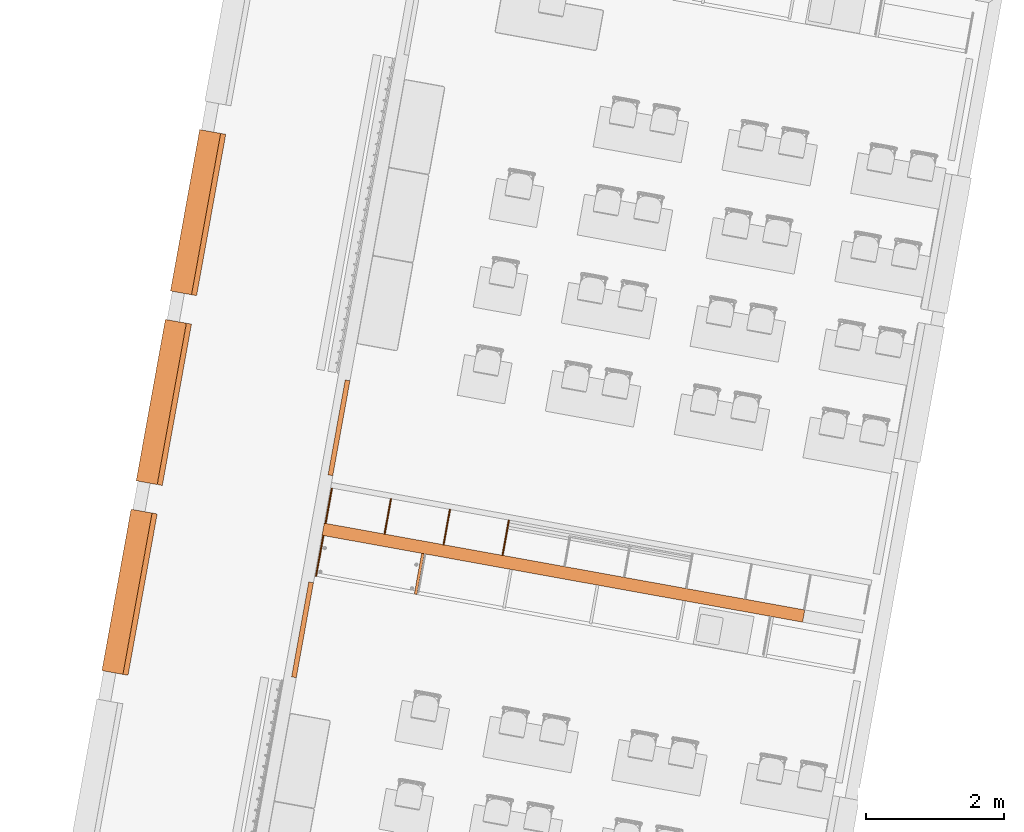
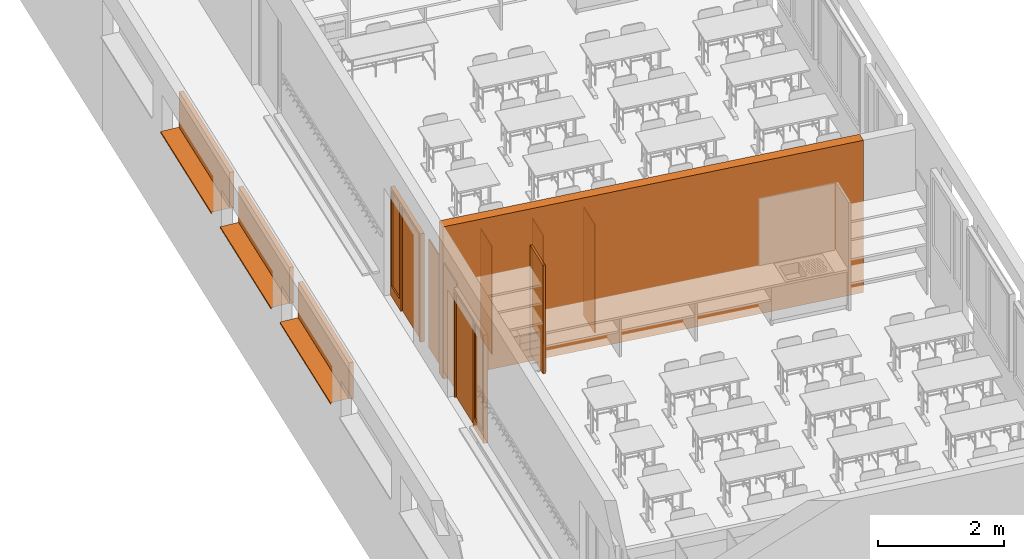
# One storey, part 25 of 79: 12 proxies.
"""IFC2X3 building model written with IfcOpenShell, lengths in metres."""

import ifcopenshell
import ifcopenshell.guid

model = None  # the IFC model being written
_history = None  # IfcOwnerHistory: only IFC2X3 demands one
_inside = {}  # id of a spatial element -> (the spatial element, [elements in it])
_under = {}  # id of a project, library or spatial element -> (it, [spatial elements below it])
_declared = {}  # id of a project -> (the project, [libraries it declares])
_typed = {}  # id of a type object -> (the type object, [elements of that type])
_made_of = {}  # id of a material, layer set ... -> (it, [elements and type objects made of it])


def new_model(schema):
    """Start an empty IFC model of exactly this schema.

    Asked for "IFC4X3", IfcOpenShell would pick the latest addendum, in which some entities
    have other attributes; the version numbers below select the first issue.
    IFC2X3 requires an IfcOwnerHistory on every rooted entity: one is made here for all.
    """
    global model, _history
    if schema == "IFC4X3":
        model = ifcopenshell.file(schema_version=(4, 3, 0, 0))
    else:
        model = ifcopenshell.file(schema=schema)
    _inside.clear()
    _under.clear()
    _declared.clear()
    _typed.clear()
    _made_of.clear()
    _history = None
    if model.schema == "IFC2X3":
        org = make("IfcOrganization", Name="unknown")
        user = make(
            "IfcPersonAndOrganization",
            ThePerson=make("IfcPerson", FamilyName="unknown"),
            TheOrganization=org,
        )
        app = make(
            "IfcApplication",
            ApplicationDeveloper=org,
            Version="unknown",
            ApplicationFullName="unknown",
            ApplicationIdentifier="unknown",
        )
        _history = make(
            "IfcOwnerHistory",
            OwningUser=user,
            OwningApplication=app,
            ChangeAction="ADDED",
            CreationDate=0,
        )
    return model


def make(cls, **values):
    """One entity of the class cls with the attributes given. An attribute that is None is left unset."""
    return model.create_entity(
        cls, **{name: value for name, value in values.items() if value is not None}
    )


def entity(cls, *values):
    """Any entity or typed value of the class cls, its attributes in the order of the schema. None: left unset."""
    e = model.create_entity(cls)
    for i, value in enumerate(values):
        if value is not None:
            e[i] = value
    return e


def rooted(cls, **values):
    """An entity with a GlobalId (a new one), such as an element, a storey or a relation."""
    return make(cls, GlobalId=ifcopenshell.guid.new(), OwnerHistory=_history, **values)


def si_unit(unit_type, name, prefix=None):
    """IfcSIUnit, for example si_unit("LENGTHUNIT", "METRE", prefix="MILLI")."""
    return make("IfcSIUnit", UnitType=unit_type, Prefix=prefix, Name=name)


def converted_unit(unit_type, name, factor, base, dimensions=None, offset=None):
    """IfcConversionBasedUnit, such as the inch: factor (a typed value) times the base unit."""
    return make(
        "IfcConversionBasedUnit"
        if offset is None
        else "IfcConversionBasedUnitWithOffset",
        ConversionOffset=offset,
        Dimensions=None
        if dimensions is None
        else entity("IfcDimensionalExponents", *dimensions),
        UnitType=unit_type,
        Name=name,
        ConversionFactor=make(
            "IfcMeasureWithUnit", ValueComponent=factor, UnitComponent=base
        ),
    )


def derived_unit(unit_type, elements):
    """IfcDerivedUnit: a product of units, each with its exponent."""
    return make(
        "IfcDerivedUnit",
        Elements=[
            make("IfcDerivedUnitElement", Unit=unit, Exponent=power)
            for unit, power in elements
        ],
        UnitType=unit_type,
    )


def money_unit(currency):
    """IfcMonetaryUnit."""
    return make("IfcMonetaryUnit", Currency=currency)


def assignment(units):
    """IfcUnitAssignment: the units of a project."""
    return None if units is None else make("IfcUnitAssignment", Units=units)


def point(xyz):
    """IfcCartesianPoint."""
    return None if xyz is None else make("IfcCartesianPoint", Coordinates=xyz)


def direction(xyz):
    """IfcDirection."""
    return None if xyz is None else make("IfcDirection", DirectionRatios=xyz)


def frame(location, z_axis=None, x_axis=None):
    """IfcAxis2Placement3D, a coordinate frame: its origin and axes. An axis left out is left unset."""
    return make(
        "IfcAxis2Placement3D",
        Location=point(location),
        Axis=direction(z_axis),
        RefDirection=direction(x_axis),
    )


def origin_with_axes():
    """The frame at (0, 0, 0) with the z axis (0, 0, 1) and the x axis (1, 0, 0) written out."""
    return frame((0.0, 0.0, 0.0), z_axis=(0.0, 0.0, 1.0), x_axis=(1.0, 0.0, 0.0))


def place(relative_to, where):
    """IfcLocalPlacement: puts the frame where relative to a parent placement (None: the world)."""
    return make(
        "IfcLocalPlacement", PlacementRelTo=relative_to, RelativePlacement=where
    )


def context(
    kind, dimensions, precision=None, world=None, true_north=None, identifier=None
):
    """IfcGeometricRepresentationContext, for example the 3D "Model" context."""
    return make(
        "IfcGeometricRepresentationContext",
        ContextIdentifier=identifier,
        ContextType=kind,
        CoordinateSpaceDimension=dimensions,
        Precision=precision,
        WorldCoordinateSystem=world,
        TrueNorth=true_north,
    )


def subcontext(parent, identifier, kind, view, scale=None):
    """IfcGeometricRepresentationSubContext, for example "Body" below "Model"."""
    return make(
        "IfcGeometricRepresentationSubContext",
        ContextIdentifier=identifier,
        ContextType=kind,
        ParentContext=parent,
        TargetScale=scale,
        TargetView=view,
    )


def project(units=None, contexts=None):
    """IfcProject with its units and contexts."""
    return rooted(
        "IfcProject",
        Name="project",
        RepresentationContexts=contexts,
        UnitsInContext=assignment(units),
    )


def spatial(cls, under=None, at=None, **own):
    """A site, building, storey or space (cls), placed at a placement, below another one or the project."""
    s = rooted(cls, ObjectPlacement=at, **own)
    if under is not None:
        _under.setdefault(under.id(), (under, []))[1].append(s)
    return s


def polyline(points):
    """IfcPolyline through the points."""
    return make("IfcPolyline", Points=[point(p) for p in points])


def outline(outer, holes=None, kind="AREA"):
    """IfcArbitraryClosedProfileDef: a profile drawn as a closed curve; with holes, ...WithVoids."""
    if holes is None:
        return make("IfcArbitraryClosedProfileDef", ProfileType=kind, OuterCurve=outer)
    return make(
        "IfcArbitraryProfileDefWithVoids",
        ProfileType=kind,
        OuterCurve=outer,
        InnerCurves=holes,
    )


def extrude(swept, where, along, depth):
    """IfcExtrudedAreaSolid: the profile swept, set in the frame where, extruded along a direction by depth."""
    return make(
        "IfcExtrudedAreaSolid",
        SweptArea=swept,
        Position=where,
        ExtrudedDirection=direction(along),
        Depth=depth,
    )


def faces_of(points, faces, orient=None, outer=None):
    """IfcFace entities. A face is a list of loops; a loop is a list of indices into points, from 0.

    orient and outer hold one flag for each loop. By default every Orientation is true, the
    first loop of a face is its IfcFaceOuterBound and the others are IfcFaceBound.
    """
    made = []
    for i, loops in enumerate(faces):
        bounds = []
        for j, loop in enumerate(loops):
            is_outer = j == 0 if outer is None else outer[i][j]
            bounds.append(
                make(
                    "IfcFaceOuterBound" if is_outer else "IfcFaceBound",
                    Bound=make("IfcPolyLoop", Polygon=[points[k] for k in loop]),
                    Orientation=True if orient is None else orient[i][j],
                )
            )
        made.append(make("IfcFace", Bounds=bounds))
    return made


def open_shell(faces, orient=None, outer=None):
    """The faces of one IfcOpenShell. surface_model builds it on its shared points."""
    return ("IfcOpenShell", faces, orient, outer)


def faceted_brep(points, faces, orient=None, outer=None, voids=None):
    """IfcFacetedBrep: a solid bounded by flat faces; with voids (closed shells), ...WithVoids."""
    shared = [point(p) for p in points]
    hull = make("IfcClosedShell", CfsFaces=faces_of(shared, faces, orient, outer))
    if voids is None:
        return make("IfcFacetedBrep", Outer=hull)
    return make(
        "IfcFacetedBrepWithVoids",
        Outer=hull,
        Voids=[
            make(cls, CfsFaces=faces_of(shared, fs, o, b)) for cls, fs, o, b in voids
        ],
    )


def surface_model(cls, points, shells):
    """IfcFaceBasedSurfaceModel or IfcShellBasedSurfaceModel (cls): surfaces that need not close."""
    shared = [point(p) for p in points]
    made = [make(c, CfsFaces=faces_of(shared, fs, o, b)) for c, fs, o, b in shells]
    if cls == "IfcFaceBasedSurfaceModel":
        return make(cls, FbsmFaces=made)
    return make(cls, SbsmBoundary=made)


def shape(context_of_items, identifier, shape_type, items):
    """IfcShapeRepresentation: the items that make up one representation, for example the "Body"."""
    return make(
        "IfcShapeRepresentation",
        ContextOfItems=context_of_items,
        RepresentationIdentifier=identifier,
        RepresentationType=shape_type,
        Items=items,
    )


def source(mapping_origin, context_of_items, identifier, shape_type, items):
    """IfcRepresentationMap: a shape defined once, which mapped items show again and again."""
    return make(
        "IfcRepresentationMap",
        MappingOrigin=mapping_origin,
        MappedRepresentation=shape(context_of_items, identifier, shape_type, items),
    )


def transform(
    local_origin,
    x_axis=None,
    y_axis=None,
    z_axis=None,
    scale=None,
    scale2=None,
    scale3=None,
    uniform=True,
):
    """IfcCartesianTransformationOperator3D, or its non-uniform kind. x_axis, y_axis, z_axis: its Axis1, 2, 3."""
    if uniform:
        return make(
            "IfcCartesianTransformationOperator3D",
            Axis1=direction(x_axis),
            Axis2=direction(y_axis),
            LocalOrigin=point(local_origin),
            Scale=scale,
            Axis3=direction(z_axis),
        )
    return make(
        "IfcCartesianTransformationOperator3DnonUniform",
        Axis1=direction(x_axis),
        Axis2=direction(y_axis),
        LocalOrigin=point(local_origin),
        Scale=scale,
        Axis3=direction(z_axis),
        Scale2=scale2,
        Scale3=scale3,
    )


def mapped(mapping_source, mapping_target):
    """IfcMappedItem: shows the shape of a source again, moved by a transform."""
    return make(
        "IfcMappedItem", MappingSource=mapping_source, MappingTarget=mapping_target
    )


def material(Name=None, Category=None):
    """IfcMaterial."""
    return make("IfcMaterial", Name=Name, Category=Category)


def made_of(thing, what):
    """Note that an element or type object is made of a material, layer set ...; save() writes the relation."""
    if what is not None:
        _made_of.setdefault(what.id(), (what, []))[1].append(thing)
    return thing


def type_object(cls, material=None, **own):
    """A type object (cls), such as IfcWallType, which elements share."""
    return made_of(rooted(cls, **own), material)


def element(
    cls,
    number,
    at=None,
    inside=None,
    cuts=None,
    type_object=None,
    material=None,
    context=None,
    identifier="Body",
    shape_type=None,
    held_by="IfcProductDefinitionShape",
    body=None,
    shapes=None,
    **own,
):
    """One element of the class cls, such as IfcWall. Its Tag is "e" and its number.

    at: its placement. inside: the storey or other place that contains it. cuts: it is an
    opening in that element (IfcRelVoidsElement). A single representation is given by context,
    identifier, shape_type and body (its items); several are given by shapes. held_by: the class
    of the entity that holds the representations. save() writes the other relations.
    """
    e = rooted(cls, Tag="e%d" % number, ObjectPlacement=at, **own)
    if body is not None:
        shapes = [shape(context, identifier, shape_type, body)]
    if shapes is not None:
        e.Representation = make(held_by, Representations=shapes)
    if inside is not None:
        _inside.setdefault(inside.id(), (inside, []))[1].append(e)
    if cuts is not None:
        rooted(
            "IfcRelVoidsElement", RelatingBuildingElement=cuts, RelatedOpeningElement=e
        )
    if type_object is not None:
        _typed.setdefault(type_object.id(), (type_object, []))[1].append(e)
    return made_of(e, material)


def aggregate(whole, parts):
    """IfcRelAggregates: a whole, such as a stair, and the parts it consists of."""
    return rooted("IfcRelAggregates", RelatingObject=whole, RelatedObjects=parts)


def save(model, path):
    """Write the relations noted so far, then the file.

    IfcRelAggregates (storeys below a building ...), IfcRelContainedInSpatialStructure (elements
    in a storey), IfcRelDefinesByType, IfcRelAssociatesMaterial and IfcRelDeclares: one each for
    every whole, place, type object, material and project.
    """
    for whole, parts in _under.values():
        aggregate(whole, parts)
    for where, things in _inside.values():
        rooted(
            "IfcRelContainedInSpatialStructure",
            RelatedElements=things,
            RelatingStructure=where,
        )
    for kind, things in _typed.values():
        rooted("IfcRelDefinesByType", RelatedObjects=things, RelatingType=kind)
    for what, things in _made_of.values():
        rooted("IfcRelAssociatesMaterial", RelatedObjects=things, RelatingMaterial=what)
    for by, libraries in _declared.values():
        rooted("IfcRelDeclares", RelatingContext=by, RelatedDefinitions=libraries)
    model.write(path)


model = new_model("IFC2X3")

# Units and contexts
model_context = context("Model", 3, precision=1e-05, world=origin_with_axes(), true_north=direction((0.0, 1.0)))
body_context = subcontext(model_context, "Body", "Model", "MODEL_VIEW")
ifc_project = project(units=[si_unit("LENGTHUNIT", "METRE"), si_unit("AREAUNIT", "SQUARE_METRE"), si_unit("VOLUMEUNIT", "CUBIC_METRE"), converted_unit("PLANEANGLEUNIT", "DEGREE", entity("IfcPlaneAngleMeasure", 0.0174532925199), si_unit("PLANEANGLEUNIT", "RADIAN"), dimensions=[0, 0, 0, 0, 0, 0, 0]), money_unit("CHF"), converted_unit("TIMEUNIT", "Year", entity("IfcTimeMeasure", 31556926.0), si_unit("TIMEUNIT", "SECOND"), dimensions=[0, 0, 1, 0, 0, 0, 0]), si_unit("MASSUNIT", "GRAM", prefix="KILO"), si_unit("THERMODYNAMICTEMPERATUREUNIT", "DEGREE_CELSIUS"), si_unit("LUMINOUSINTENSITYUNIT", "LUMEN"), si_unit("ENERGYUNIT", "JOULE", prefix="MEGA"), derived_unit("THERMALCONDUCTANCEUNIT", [(si_unit("POWERUNIT", "WATT"), 1), (si_unit("LENGTHUNIT", "METRE"), -1), (si_unit("THERMODYNAMICTEMPERATUREUNIT", "KELVIN"), -1)]), derived_unit("SPECIFICHEATCAPACITYUNIT", [(si_unit("ENERGYUNIT", "JOULE"), 1), (si_unit("MASSUNIT", "GRAM", prefix="KILO"), -1), (si_unit("THERMODYNAMICTEMPERATUREUNIT", "KELVIN"), -1)]), derived_unit("MASSDENSITYUNIT", [(si_unit("MASSUNIT", "GRAM", prefix="KILO"), 1), (si_unit("VOLUMEUNIT", "CUBIC_METRE"), -1)])], contexts=[model_context])

# Site, building, storey
site_placement = place(None, frame((0.0, 0.0, 0.0), z_axis=(0.0, 0.0, 1.0), x_axis=(-0.177771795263, -0.984071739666, 0.0)))
site = spatial("IfcSite", under=ifc_project, at=site_placement, Name="Site", CompositionType="ELEMENT")
building_placement = place(site_placement, origin_with_axes())
building = spatial("IfcBuilding", under=site, at=building_placement, Name="Bâtiment", CompositionType="ELEMENT")
storey_placement = place(building_placement, origin_with_axes())
storey = spatial("IfcBuildingStorey", under=building, at=storey_placement, Name="RDC", CompositionType="ELEMENT", Elevation=0.0)

# Proxies
ifc_material_1 = material(Name="_BA banché RAL9007")
building_element_proxy_type_1 = type_object("IfcBuildingElementProxyType", Name="_BA banché RAL9007 180", PredefinedType="NOTDEFINED")
proxy_1_placement = place(storey_placement, frame((155.69984114, -156.627150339, -0.15), z_axis=(0.0, 0.0, 1.0), x_axis=(0.0, 1.0, 0.0)))
element("IfcBuildingElementProxy", 1, at=proxy_1_placement, inside=storey, type_object=building_element_proxy_type_1, material=ifc_material_1, Name="M refend", context=body_context, shape_type="SweptSolid", body=[
    extrude(outline(polyline([(0.18, 0.0), (7.26899893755, 0.0), (7.26899893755, 0.18), (0.180000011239, 0.18), (0.18, 0.0)])), origin_with_axes(), (0.0, 0.0, 1.0), 2.95),
])
ifc_material_2 = material(Name="_panneau mélaminé")
building_element_proxy_type_2 = type_object("IfcBuildingElementProxyType", Name="_panneau mélaminé 40", PredefinedType="NOTDEFINED")
proxy_2_placement = place(storey_placement, frame((156.299841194, -154.978236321, 0.0), z_axis=(0.0, 0.0, 1.0), x_axis=(-1.0, 0.0, 0.0)))
element("IfcBuildingElementProxy", 2, at=proxy_2_placement, inside=storey, type_object=building_element_proxy_type_2, material=ifc_material_2, Name="cloison-fd-classe G", context=body_context, shape_type="SweptSolid", body=[
    extrude(outline(polyline([(0.0, -0.04), (0.600000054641, -0.04), (0.600000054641, 0.0), (0.0, 0.0), (0.0, -0.04)])), origin_with_axes(), (0.0, 0.0, 1.0), 2.1),
])
building_element_proxy_type_3 = type_object("IfcBuildingElementProxyType", Name="_panneau mélaminé 19", PredefinedType="NOTDEFINED")
proxy_3_placement = place(storey_placement, frame((155.51984114, -153.816651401, 0.0), z_axis=(0.0, 0.0, 1.0), x_axis=(-1.0, 0.0, 0.0)))
element("IfcBuildingElementProxy", 3, at=proxy_3_placement, inside=storey, type_object=building_element_proxy_type_3, material=ifc_material_2, Name="cloison pl-classe", context=body_context, shape_type="SweptSolid", body=[
    extrude(outline(polyline([(0.0, -0.0095), (0.520000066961, -0.0095), (0.520000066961, 0.0095), (0.0, 0.0095), (0.0, -0.0095)])), origin_with_axes(), (0.0, 0.0, 1.0), 2.1),
])
for number, where, z_axis, x_axis, name in (
    (4, (155.51984114, -154.686651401, 0.0), (0.0, 0.0, 1.0), (-1.0, 0.0, 0.0), "cloison pl-classe"),
    (5, (155.51984114, -155.556651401, 0.0), (0.0, 0.0, 1.0), (-1.0, 0.0, 0.0), "cloison pl-classe"),
):
    element("IfcBuildingElementProxy", number, at=place(storey_placement, frame(where, z_axis=z_axis, x_axis=x_axis)), inside=storey, type_object=building_element_proxy_type_3, material=ifc_material_2, Name=name, context=body_context, shape_type="SweptSolid", body=[
        extrude(outline(polyline([(0.0, -0.0095), (0.520000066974, -0.0095), (0.520000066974, 0.0095), (0.0, 0.0095), (0.0, -0.0095)])), origin_with_axes(), (0.0, 0.0, 1.0), 2.1),
    ])
proxy_4_placement = place(storey_placement, frame((156.299841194, -156.418151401, 0.0), z_axis=(0.0, 0.0, 1.0), x_axis=(-1.0, 0.0, 0.0)))
element("IfcBuildingElementProxy", 6, at=proxy_4_placement, inside=storey, type_object=building_element_proxy_type_3, material=ifc_material_2, Name="cloison-fd-classe G", context=body_context, shape_type="SweptSolid", body=[
    extrude(outline(polyline([(0.0, 0.0), (0.600000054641, 0.0), (0.600000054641, 0.019), (0.0, 0.019), (0.0, 0.0)])), origin_with_axes(), (0.0, 0.0, 1.0), 2.1),
])
proxy_5_placement = place(storey_placement, frame((155.519841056, -156.418137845, 0.0), z_axis=(0.0, 0.0, 1.0), x_axis=(-1.0, 0.0, 0.0)))
element("IfcBuildingElementProxy", 7, at=proxy_5_placement, inside=storey, type_object=building_element_proxy_type_3, material=ifc_material_2, Name="cloison pl-classe", context=body_context, shape_type="SweptSolid", body=[
    extrude(outline(polyline([(0.0, 0.0), (0.519999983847, 0.0), (0.519999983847, 0.019), (0.0, 0.019), (0.0, 0.0)])), origin_with_axes(), (0.0, 0.0, 1.0), 2.1),
])
ifc_material_3 = material(Name="Matériau de construction IFC")
building_element_proxy_type_4 = type_object("IfcBuildingElementProxyType", Name="Porte avec tierce vitrée côté 2 21", PredefinedType="NOTDEFINED")
shared_shape_1 = source(origin_with_axes(), body_context, "Body", "SurfaceModel", [
    faceted_brep([(0.0, 0.179999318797, 0.0), (0.05, 0.179999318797, 0.0), (0.05, 0.109999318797, 0.0), (0.0, 0.109999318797, 0.0), (0.0, 0.179999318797, 2.05), (0.05, 0.179999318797, 2.05), (0.05, 0.179999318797, 0.2), (0.05, 0.109999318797, 0.2), (0.05, 0.109999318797, 2.05), (0.0, 0.109999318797, 2.05)], [[[0, 1, 2, 3]], [[0, 4, 5, 6, 1]], [[1, 6, 7, 2]], [[3, 2, 7, 8, 9]], [[4, 0, 3, 9]], [[5, 4, 9, 8]], [[6, 5, 8, 7]]]),
    faceted_brep([(0.49, 0.139999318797, 0.0), (0.49, 0.139999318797, 2.05), (0.49, 0.109999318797, 2.05), (0.49, 0.109999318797, 0.0), (0.47, 0.139999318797, 2.05), (0.47, 0.139999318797, 0.0), (0.47, 0.179999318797, 2.05), (0.44, 0.179999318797, 2.05), (0.44, 0.109999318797, 2.05), (0.44, 0.109999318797, 0.0), (0.44, 0.109999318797, 0.2), (0.44, 0.179999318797, 0.0), (0.47, 0.179999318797, 0.0), (0.44, 0.179999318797, 0.2)], [[[0, 1, 2, 3]], [[4, 1, 0, 5]], [[4, 6, 7, 8, 2, 1]], [[9, 3, 2, 8, 10]], [[5, 0, 3, 9, 11, 12]], [[6, 4, 5, 12]], [[6, 12, 11, 13, 7]], [[13, 10, 8, 7]], [[11, 9, 10, 13]]]),
    faceted_brep([(0.05, 0.179999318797, 0.2), (0.05, 0.179999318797, 0.0), (0.05, 0.109999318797, 0.0), (0.05, 0.109999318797, 0.2), (0.44, 0.179999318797, 0.2), (0.44, 0.179999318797, 0.0), (0.44, 0.109999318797, 0.0), (0.44, 0.109999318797, 0.2)], [[[0, 1, 2, 3]], [[0, 4, 5, 1]], [[1, 5, 6, 2]], [[3, 2, 6, 7]], [[4, 0, 3, 7]], [[5, 4, 7, 6]]]),
    faceted_brep([(1.37, 0.139999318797, 2.05), (1.35, 0.139999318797, 2.05), (1.35, 0.109999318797, 2.05), (1.4, 0.109999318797, 2.05), (1.4, 0.179999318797, 2.05), (1.37, 0.179999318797, 2.05), (1.37, 0.139999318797, 0.0), (1.35, 0.139999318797, 0.0), (1.35, 0.109999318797, 0.0), (1.4, 0.109999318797, 0.0), (1.4, 0.179999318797, 0.0), (1.37, 0.179999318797, 0.0)], [[[0, 1, 2, 3, 4, 5]], [[1, 0, 6, 7]], [[1, 7, 8, 2]], [[3, 2, 8, 9]], [[4, 3, 9, 10]], [[11, 5, 4, 10]], [[0, 5, 11, 6]], [[6, 11, 10, 9, 8, 7]]]),
    faceted_brep([(0.47, 0.179999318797, 2.07), (0.47, 0.179999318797, 2.05), (0.44, 0.179999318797, 2.05), (0.05, 0.179999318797, 2.05), (0.0, 0.179999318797, 2.05), (0.0, 0.179999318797, 2.1), (1.4, 0.179999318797, 2.1), (1.4, 0.179999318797, 2.05), (1.37, 0.179999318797, 2.05), (1.37, 0.179999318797, 2.07), (0.47, 0.139999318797, 2.07), (0.47, 0.139999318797, 2.05), (1.35, 0.139999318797, 2.05), (1.35, 0.109999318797, 2.05), (0.49, 0.109999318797, 2.05), (0.44, 0.109999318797, 2.05), (0.05, 0.109999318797, 2.05), (0.0, 0.109999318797, 2.05), (0.0, 0.109999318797, 2.1), (1.4, 0.109999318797, 2.1), (1.4, 0.109999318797, 2.05), (1.37, 0.139999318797, 2.05), (1.37, 0.139999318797, 2.07)], [[[0, 1, 2, 3, 4, 5, 6, 7, 8, 9]], [[1, 0, 10, 11]], [[11, 12, 13, 14, 15, 2, 1]], [[2, 15, 16, 3]], [[3, 16, 17, 4]], [[4, 17, 18, 5]], [[5, 18, 19, 6]], [[6, 19, 20, 7]], [[21, 8, 7, 20, 13, 12]], [[9, 8, 21, 22]], [[0, 9, 22, 10]], [[21, 12, 11, 10, 22]], [[13, 20, 19, 18, 17, 16, 15, 14]]]),
    faceted_brep([(1.37, 0.179999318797, 0.0), (1.37, 0.139999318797, 0.0), (0.47, 0.139999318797, 0.0), (0.47, 0.179999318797, 0.0), (1.37, 0.179999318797, 2.07), (1.37, 0.139999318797, 2.07), (0.47, 0.139999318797, 2.07), (0.47, 0.179999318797, 2.07)], [[[0, 1, 2, 3]], [[4, 5, 1, 0]], [[1, 5, 6, 2]], [[3, 2, 6, 7]], [[0, 3, 7, 4]], [[7, 6, 5, 4]]]),
    surface_model("IfcShellBasedSurfaceModel", [(0.05, 0.144999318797, 0.2), (0.05, 0.144999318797, 2.05), (0.44, 0.144999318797, 2.05), (0.44, 0.144999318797, 0.2)], [open_shell([[[0, 1, 2, 3]]])]),
    surface_model("IfcShellBasedSurfaceModel", [(0.05, 0.134999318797, 0.2), (0.44, 0.134999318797, 0.2), (0.44, 0.134999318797, 2.05), (0.05, 0.134999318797, 2.05)], [open_shell([[[0, 1, 2, 3]]])]),
])
proxy_6_placement = place(storey_placement, frame((153.419841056, -156.627150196, 0.0), z_axis=(0.0, 0.0, 1.0), x_axis=(1.0, -6.24383615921e-08, 0.0)))
element("IfcBuildingElementProxy", 8, at=proxy_6_placement, inside=storey, type_object=building_element_proxy_type_4, material=ifc_material_3, Name="8", context=body_context, shape_type="MappedRepresentation", body=[
    mapped(shared_shape_1, transform((0.0, 0.0, 0.0))),
])
shared_shape_2 = source(origin_with_axes(), body_context, "Body", "SurfaceModel", [
    faceted_brep([(1.4, 0.179999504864, 0.0), (1.4, 0.109999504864, 0.0), (1.35, 0.109999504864, 0.0), (1.35, 0.179999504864, 0.0), (1.4, 0.179999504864, 2.05), (1.4, 0.109999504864, 2.05), (1.35, 0.109999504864, 2.05), (1.35, 0.109999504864, 0.2), (1.35, 0.179999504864, 0.2), (1.35, 0.179999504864, 2.05)], [[[0, 1, 2, 3]], [[4, 5, 1, 0]], [[1, 5, 6, 7, 2]], [[3, 2, 7, 8]], [[0, 3, 8, 9, 4]], [[9, 6, 5, 4]], [[8, 7, 6, 9]]]),
    faceted_brep([(0.91, 0.139999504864, 0.0), (0.91, 0.109999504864, 0.0), (0.91, 0.109999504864, 2.05), (0.91, 0.139999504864, 2.05), (0.93, 0.139999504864, 0.0), (0.93, 0.179999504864, 0.0), (0.96, 0.179999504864, 0.0), (0.96, 0.109999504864, 0.0), (0.96, 0.109999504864, 0.2), (0.96, 0.109999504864, 2.05), (0.93, 0.139999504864, 2.05), (0.96, 0.179999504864, 2.05), (0.93, 0.179999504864, 2.05), (0.96, 0.179999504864, 0.2)], [[[0, 1, 2, 3]], [[4, 5, 6, 7, 1, 0]], [[7, 8, 9, 2, 1]], [[10, 3, 2, 9, 11, 12]], [[10, 4, 0, 3]], [[12, 5, 4, 10]], [[12, 11, 13, 6, 5]], [[6, 13, 8, 7]], [[13, 11, 9, 8]]]),
    faceted_brep([(1.35, 0.179999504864, 0.2), (1.35, 0.109999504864, 0.2), (1.35, 0.109999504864, 0.0), (1.35, 0.179999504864, 0.0), (0.96, 0.179999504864, 0.2), (0.96, 0.109999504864, 0.2), (0.96, 0.109999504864, 0.0), (0.96, 0.179999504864, 0.0)], [[[0, 1, 2, 3]], [[4, 5, 1, 0]], [[1, 5, 6, 2]], [[3, 2, 6, 7]], [[0, 3, 7, 4]], [[7, 6, 5, 4]]]),
    faceted_brep([(0.03, 0.139999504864, 2.05), (0.03, 0.179999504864, 2.05), (0.0, 0.179999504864, 2.05), (0.0, 0.109999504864, 2.05), (0.05, 0.109999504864, 2.05), (0.05, 0.139999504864, 2.05), (0.03, 0.139999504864, 0.0), (0.03, 0.179999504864, 0.0), (0.0, 0.179999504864, 0.0), (0.0, 0.109999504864, 0.0), (0.05, 0.109999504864, 0.0), (0.05, 0.139999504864, 0.0)], [[[0, 1, 2, 3, 4, 5]], [[0, 6, 7, 1]], [[7, 8, 2, 1]], [[2, 8, 9, 3]], [[3, 9, 10, 4]], [[5, 4, 10, 11]], [[5, 11, 6, 0]], [[6, 11, 10, 9, 8, 7]]]),
    faceted_brep([(0.93, 0.179999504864, 2.07), (0.03, 0.179999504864, 2.07), (0.03, 0.179999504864, 2.05), (0.0, 0.179999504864, 2.05), (0.0, 0.179999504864, 2.1), (1.4, 0.179999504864, 2.1), (1.4, 0.179999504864, 2.05), (1.35, 0.179999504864, 2.05), (0.96, 0.179999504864, 2.05), (0.93, 0.179999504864, 2.05), (0.93, 0.139999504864, 2.07), (0.03, 0.139999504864, 2.07), (0.03, 0.139999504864, 2.05), (0.05, 0.139999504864, 2.05), (0.05, 0.109999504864, 2.05), (0.0, 0.109999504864, 2.05), (0.0, 0.109999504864, 2.1), (1.4, 0.109999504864, 2.1), (1.4, 0.109999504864, 2.05), (1.35, 0.109999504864, 2.05), (0.96, 0.109999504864, 2.05), (0.93, 0.139999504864, 2.05), (0.91, 0.109999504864, 2.05)], [[[0, 1, 2, 3, 4, 5, 6, 7, 8, 9]], [[0, 10, 11, 1]], [[1, 11, 12, 2]], [[12, 13, 14, 15, 3, 2]], [[4, 3, 15, 16]], [[5, 4, 16, 17]], [[6, 5, 17, 18]], [[7, 6, 18, 19]], [[8, 7, 19, 20]], [[21, 9, 8, 20, 22, 14, 13]], [[9, 21, 10, 0]], [[12, 11, 10, 21, 13]], [[14, 22, 20, 19, 18, 17, 16, 15]]]),
    faceted_brep([(0.03, 0.179999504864, 0.0), (0.93, 0.179999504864, 0.0), (0.93, 0.139999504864, 0.0), (0.03, 0.139999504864, 0.0), (0.03, 0.179999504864, 2.07), (0.93, 0.179999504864, 2.07), (0.93, 0.139999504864, 2.07), (0.03, 0.139999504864, 2.07)], [[[0, 1, 2, 3]], [[0, 4, 5, 1]], [[1, 5, 6, 2]], [[3, 2, 6, 7]], [[4, 0, 3, 7]], [[5, 4, 7, 6]]]),
    surface_model("IfcShellBasedSurfaceModel", [(1.35, 0.144999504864, 0.2), (0.96, 0.144999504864, 0.2), (0.96, 0.144999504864, 2.05), (1.35, 0.144999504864, 2.05)], [open_shell([[[0, 1, 2, 3]]])]),
    surface_model("IfcShellBasedSurfaceModel", [(1.35, 0.134999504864, 0.2), (1.35, 0.134999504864, 2.05), (0.96, 0.134999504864, 2.05), (0.96, 0.134999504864, 0.2)], [open_shell([[[0, 1, 2, 3]]])]),
])
proxy_7_placement = place(storey_placement, frame((156.399841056, -156.627150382, 0.0), z_axis=(0.0, 0.0, 1.0), x_axis=(1.0, -6.24383615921e-08, 0.0)))
element("IfcBuildingElementProxy", 9, at=proxy_7_placement, inside=storey, type_object=building_element_proxy_type_4, material=ifc_material_3, Name="9", context=body_context, shape_type="MappedRepresentation", body=[
    mapped(shared_shape_2, transform((0.0, 0.0, 0.0))),
])
building_element_proxy_type_5 = type_object("IfcBuildingElementProxyType", Name="Fenêtre variable 21", PredefinedType="NOTDEFINED")
shared_shape_3 = source(origin_with_axes(), body_context, "Body", "SurfaceModel", [
    surface_model("IfcShellBasedSurfaceModel", [(0.0, 0.284, 0.02), (0.0, 0.284, 0.01), (2.38, 0.284, 0.01), (2.38, 0.284, 0.02), (0.0, -0.025, -0.00087719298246), (2.38, -0.025, -0.00087719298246), (0.0, -0.025, -0.0308771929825), (2.38, -0.025, -0.0308771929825), (0.0, -0.0125, -0.0183771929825), (2.38, -0.0125, -0.0183771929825)], [open_shell([[[0, 1, 2, 3]], [[1, 4, 5, 2]], [[4, 6, 7, 5]], [[6, 8, 9, 7]]])]),
    faceted_brep([(0.075, 0.285, 0.625), (0.075, 0.36, 0.625), (0.0, 0.36, 0.625), (0.0, 0.285, 0.625), (0.075, 0.285, 0.075), (0.075, 0.36, 0.075), (0.0, 0.36, 0.075), (0.0, 0.285, 0.075)], [[[0, 1, 2, 3]], [[4, 5, 1, 0]], [[1, 5, 6, 2]], [[3, 2, 6, 7]], [[0, 3, 7, 4]], [[7, 6, 5, 4]]]),
    faceted_brep([(2.305, 0.285, 0.075), (2.305, 0.36, 0.075), (2.38, 0.36, 0.075), (2.38, 0.285, 0.075), (2.305, 0.285, 0.625), (2.305, 0.36, 0.625), (2.38, 0.36, 0.625), (2.38, 0.285, 0.625)], [[[0, 1, 2, 3]], [[4, 5, 1, 0]], [[1, 5, 6, 2]], [[3, 2, 6, 7]], [[0, 3, 7, 4]], [[7, 6, 5, 4]]]),
    faceted_brep([(0.075, 0.285, 0.075), (0.075, 0.36, 0.075), (0.0, 0.36, 0.075), (0.0, 0.285, 0.075), (2.305, 0.285, 0.075), (2.305, 0.36, 0.075), (2.38, 0.36, 0.075), (2.38, 0.36, 0.0), (0.0, 0.36, 0.0), (0.0, 0.285, 0.0), (2.38, 0.285, 0.0), (2.38, 0.285, 0.075)], [[[0, 1, 2, 3]], [[4, 5, 1, 0]], [[1, 5, 6, 7, 8, 2]], [[3, 2, 8, 9]], [[0, 3, 9, 10, 11, 4]], [[11, 6, 5, 4]], [[10, 7, 6, 11]], [[9, 8, 7, 10]]]),
    faceted_brep([(2.305, 0.285, 0.625), (2.305, 0.36, 0.625), (2.38, 0.36, 0.625), (2.38, 0.285, 0.625), (0.075, 0.285, 0.625), (0.075, 0.36, 0.625), (0.0, 0.36, 0.625), (0.0, 0.36, 0.7), (2.38, 0.36, 0.7), (2.38, 0.285, 0.7), (0.0, 0.285, 0.7), (0.0, 0.285, 0.625)], [[[0, 1, 2, 3]], [[4, 5, 1, 0]], [[1, 5, 6, 7, 8, 2]], [[3, 2, 8, 9]], [[0, 3, 9, 10, 11, 4]], [[11, 6, 5, 4]], [[10, 7, 6, 11]], [[9, 8, 7, 10]]]),
    surface_model("IfcShellBasedSurfaceModel", [(0.075, 0.285, 0.075), (2.305, 0.285, 0.075), (2.305, 0.285, 0.625), (0.075, 0.285, 0.625)], [open_shell([[[0, 1, 2, 3]]])]),
    surface_model("IfcShellBasedSurfaceModel", [(0.075, 0.305, 0.075), (0.075, 0.305, 0.625), (2.305, 0.305, 0.625), (2.305, 0.305, 0.075)], [open_shell([[[0, 1, 2, 3]]])]),
])
for number, where, z_axis, x_axis, name in (
    (10, (150.219841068, -159.217107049, 1.7), (0.0, 0.0, 1.0), (1.0, 0.0, 0.0), "Fen couloir"),
    (11, (153.019841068, -159.217107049, 1.7), (0.0, 0.0, 1.0), (1.0, 0.0, 0.0), "Fen couloir"),
    (12, (155.819841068, -159.217107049, 1.7), (0.0, 0.0, 1.0), (1.0, 0.0, 0.0), "Fen couloir"),
):
    element("IfcBuildingElementProxy", number, at=place(storey_placement, frame(where, z_axis=z_axis, x_axis=x_axis)), inside=storey, type_object=building_element_proxy_type_5, material=ifc_material_3, Name=name, context=body_context, shape_type="MappedRepresentation", body=[
        mapped(shared_shape_3, transform((0.0, 0.0, 0.0))),
    ])

save(model, "model.ifc")
